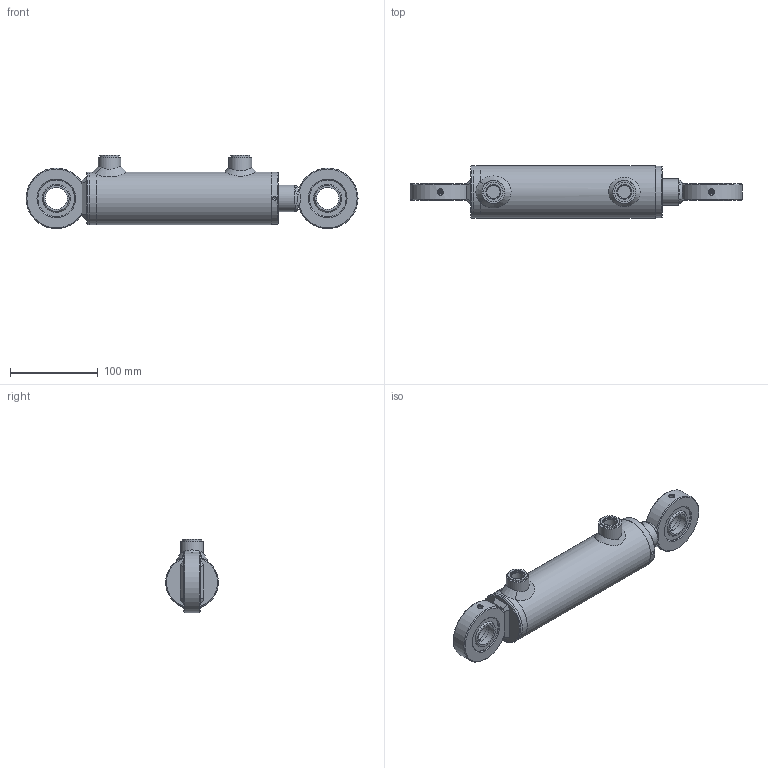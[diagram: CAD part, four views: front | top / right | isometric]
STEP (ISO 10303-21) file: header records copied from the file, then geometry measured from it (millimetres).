
FILE_DESCRIPTION( ( 'Unknown' ), '1' );
FILE_NAME( 'E:/LIBRERIA_3d/CILINDRI/HMC/HMC2300100.stp', 'Unknown', ( 'Unknown' ), ( 'Unknown' ), 'PSStep 17.0.49', 'Unknown', ' ' );
FILE_SCHEMA( ( 'AUTOMOTIVE_DESIGN { 1 0 10303 214 1 1 1 1 }' ) );
Length unit declared in the file: millimetre
Products named in the file (27): CT00050020; CG06005030; STL2500100-oa6; Saldatura d'angolo 1-oa4; FTM2500100-oa5; CBSC220600; HM02300100; Saldatura con preparazione 1-oa2; Saldatura d'angolo 1-oa3; CF00050060; CBS0600000; CDA0002015; APG0600000; SBL3020100; CAGEG06904225; CAGE069042; cge0250000; Assem1; Saldatura d'angolo 1-oa0; Saldatura d'angolo 2-oa1
Assembly tree (20 placements, depth 4):
  Saldatura d'angolo 1-oa4
  Saldatura d'angolo 1-oa4
  Saldatura d'angolo 1-oa3
  Saldatura d'angolo 1-oa3
  Assem1
    CAGEG06904225  x2
      CAGE069042
      cge0250000
    HM02300100
      Saldatura con preparazione 1-oa2
      Saldatura con preparazione 1-oa2
      CF00050060
      CBS0600000
      CDA0002015
      APG0600000  x2
      SBL3020100
      CT00050020
        CT00050020
      CG06005030
        CG06005030
      STL2500100-oa6
        FTM2500100-oa5
        CBSC220600
Bounding box: 378 x 60 x 83.5 mm (x, y, z)
Volume: 581463.4 mm3; surface area: 198180.4 mm2
Topology: 24 solids, 24 shells, 365 faces, 769 edges, 463 vertices
Faces by surface type: plane 108, bspline 94, cylinder 79, cone 42, torus 38, sphere 4
Full cylindrical faces by diameter (mm): 2 x4, 4 x2, 4.25 x1, 5 x4, 7 x2, 14.95 x2, 16 x2, 16.6 x2, 19.4 x1, 20 x5, 22 x2, 24.5 x1, 25 x4, 26 x2, 30 x5, 32 x1, 33 x1, 34 x1, 38.6 x1, 40 x3, 42 x6, 45 x1, 45.41 x2, 48.66 x2, 49.9 x1, 50 x1, 50.3 x1, 50.5 x1, 50.6 x1, 51 x1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
Entity records: 18035 total; most frequent: CARTESIAN_POINT 9737, DIRECTION 990, ORIENTED_EDGE 968, EDGE_LOOP 522, EDGE_CURVE 484, AXIS2_PLACEMENT_3D 452, FACE_OUTER_BOUND 429, VERTEX_POINT 357
